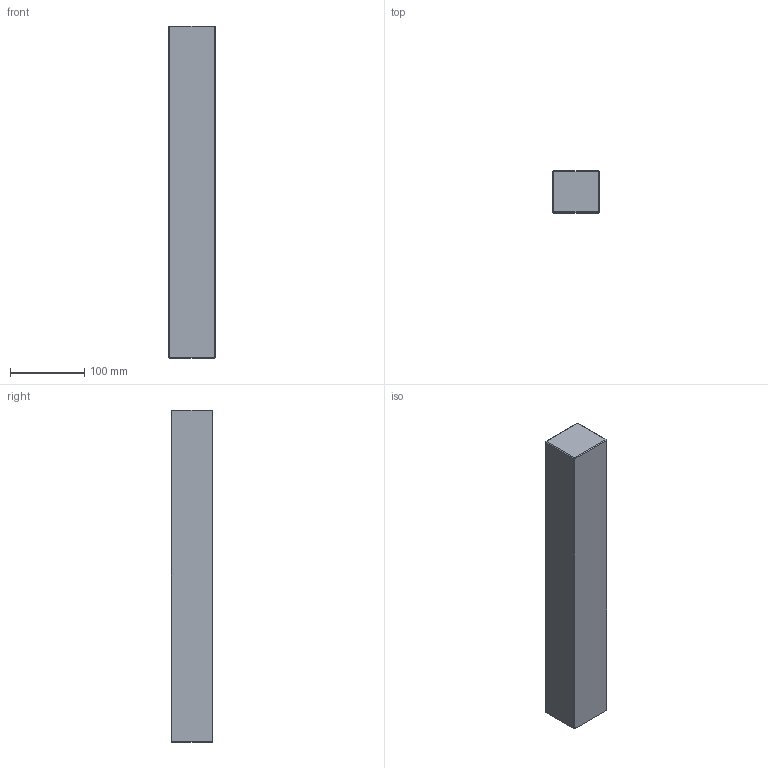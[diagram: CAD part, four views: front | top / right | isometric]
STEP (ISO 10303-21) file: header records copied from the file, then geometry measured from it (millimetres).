
FILE_DESCRIPTION (( 'STEP AP214' ), '1' );
FILE_NAME ('ESP-P-346X446x56.STEP', '2020-04-08T11:01:26', ( 'August' ), ( '' ), 'SwSTEP 2.0', 'SolidWorks 2018', '' );
FILE_SCHEMA (( 'AUTOMOTIVE_DESIGN' ));
Length unit declared in the file: millimetre
Products named in the file (1): ESP-P-346X446x56
Bounding box: 62 x 56 x 446 mm (x, y, z)
Volume: 1547389.3 mm3; surface area: 110875.5 mm2
Topology: 1 solids, 1 shells, 26 faces, 48 edges, 24 vertices
Faces by surface type: plane 26
Entity records: 634 total; most frequent: DIRECTION 102, CARTESIAN_POINT 99, ORIENTED_EDGE 96, VECTOR 48, EDGE_CURVE 48, LINE 48, AXIS2_PLACEMENT_3D 27, FACE_OUTER_BOUND 26
